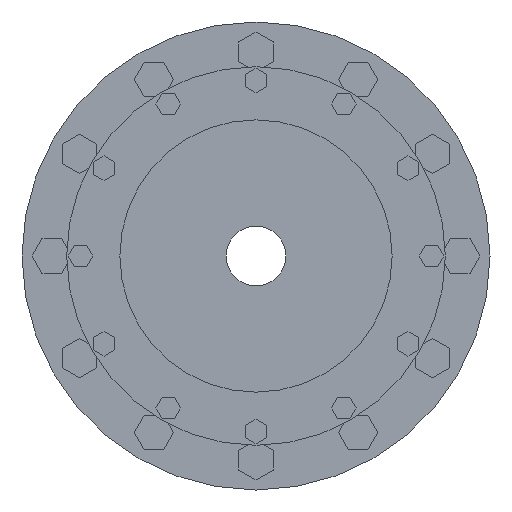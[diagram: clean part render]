
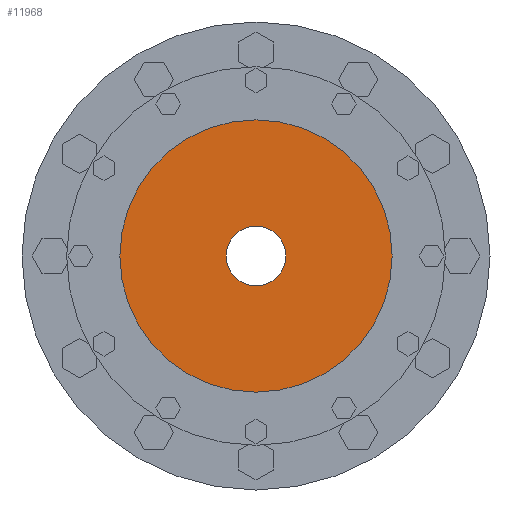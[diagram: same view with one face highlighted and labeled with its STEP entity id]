
A CAD part, left-side view. The second image highlights one B-rep face of the part: STEP entity #11968.
In plain terms, the highlighted planar face has unit normal (-1, 0, 0).
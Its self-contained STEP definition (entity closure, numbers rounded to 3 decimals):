
#11666=CARTESIAN_POINT('',(-103.,0.,0.));
#11667=DIRECTION('',(1.,0.,0.));
#11668=DIRECTION('',(0.,1.,0.));
#11669=AXIS2_PLACEMENT_3D('',#11666,#11667,#11668);
#11745=CARTESIAN_POINT('',(-103.,0.,0.));
#11746=DIRECTION('',(-1.,0.,0.));
#11747=DIRECTION('',(0.,1.,0.));
#11748=AXIS2_PLACEMENT_3D('',#11745,#11746,#11747);
#11750=CARTESIAN_POINT('',(-103.,0.,0.));
#11751=DIRECTION('',(1.,0.,0.));
#11752=DIRECTION('',(0.,1.,0.));
#11753=AXIS2_PLACEMENT_3D('',#11750,#11751,#11752);
#11764=CARTESIAN_POINT('',(-103.,0.,0.));
#11765=DIRECTION('',(-1.,0.,0.));
#11766=DIRECTION('',(0.,1.,0.));
#11767=AXIS2_PLACEMENT_3D('',#11764,#11765,#11766);
#11773=CARTESIAN_POINT('',(-103.,14.,0.));
#11774=CARTESIAN_POINT('',(-103.,-14.,0.));
#11775=VERTEX_POINT('',#11773);
#11776=VERTEX_POINT('',#11774);
#11777=CARTESIAN_POINT('',(-103.,64.,0.));
#11778=CARTESIAN_POINT('',(-103.,-64.,0.));
#11779=VERTEX_POINT('',#11777);
#11780=VERTEX_POINT('',#11778);
#11954=CARTESIAN_POINT('',(-103.,0.,0.));
#11955=DIRECTION('',(1.,0.,0.));
#11956=DIRECTION('',(0.,-1.,0.));
#11957=AXIS2_PLACEMENT_3D('',#11954,#11955,#11956);
#11958=PLANE('',#11957);
#11959=ORIENTED_EDGE('',*,*,#11936,.F.);
#11960=ORIENTED_EDGE('',*,*,#11949,.T.);
#11961=EDGE_LOOP('',(#11959,#11960));
#11962=FACE_OUTER_BOUND('',#11961,.F.);
#11963=ORIENTED_EDGE('',*,*,#11814,.F.);
#11965=ORIENTED_EDGE('',*,*,#11964,.T.);
#11966=EDGE_LOOP('',(#11963,#11965));
#11967=FACE_BOUND('',#11966,.F.);
#11968=ADVANCED_FACE('',(#11962,#11967),#11958,.F.);
#11670=CIRCLE('',#11669,14.);
#11749=CIRCLE('',#11748,64.);
#11754=CIRCLE('',#11753,64.);
#11768=CIRCLE('',#11767,14.);
#11814=EDGE_CURVE('',#11775,#11776,#11670,.T.);
#11936=EDGE_CURVE('',#11779,#11780,#11749,.T.);
#11949=EDGE_CURVE('',#11779,#11780,#11754,.T.);
#11964=EDGE_CURVE('',#11775,#11776,#11768,.T.);
